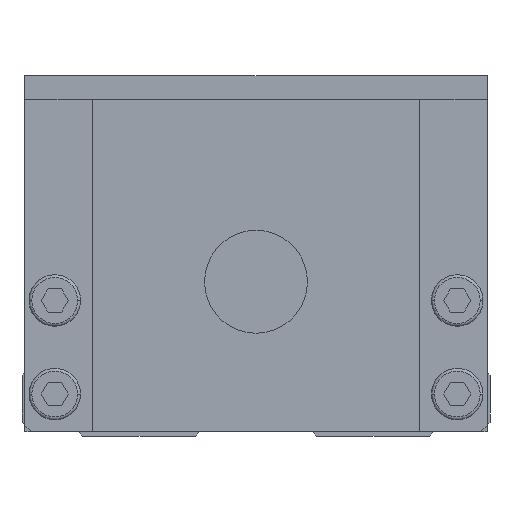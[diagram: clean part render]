
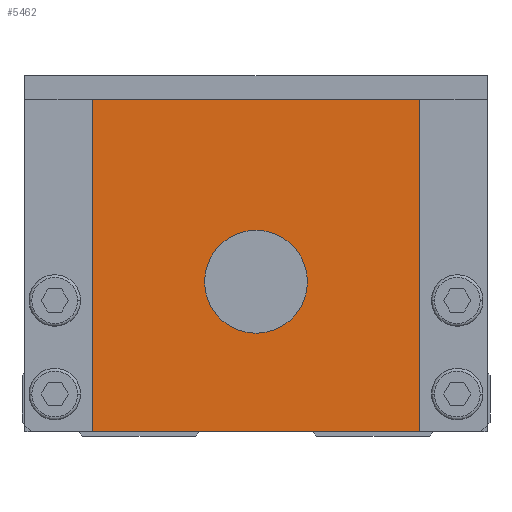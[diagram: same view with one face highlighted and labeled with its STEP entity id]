
A CAD part, front view. The second image highlights one B-rep face of the part: STEP entity #5462.
In plain terms, the highlighted planar face has unit normal (0, -1, 0).
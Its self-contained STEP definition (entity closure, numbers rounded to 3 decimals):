
#3842=EDGE_CURVE('',#7786,#9988,#10717,.T.);
#5298=EDGE_CURVE('',#9988,#7786,#12343,.T.);
#5462=ADVANCED_FACE('',(#12522,#12523),#12524,.F.);
#7598=EDGE_CURVE('',#9266,#9674,#14921,.T.);
#7786=VERTEX_POINT('',#15126);
#7942=EDGE_CURVE('',#8484,#8138,#15296,.T.);
#8138=VERTEX_POINT('',#15517);
#8484=VERTEX_POINT('',#15898);
#9266=VERTEX_POINT('',#16765);
#9674=VERTEX_POINT('',#17217);
#9916=EDGE_CURVE('',#9674,#8484,#17483,.T.);
#9988=VERTEX_POINT('',#17564);
#10226=EDGE_CURVE('',#9266,#8138,#17821,.T.);
#10717=CIRCLE('',#18511,5.5);
#12343=CIRCLE('',#20826,5.5);
#12522=FACE_BOUND('',#21085,.T.);
#12523=FACE_OUTER_BOUND('',#21086,.T.);
#12524=PLANE('',#21087);
#14921=LINE('',#24514,#24515);
#15126=CARTESIAN_POINT('',(-5.5,0.0,16.5));
#15296=LINE('',#25106,#25107);
#15517=CARTESIAN_POINT('',(-17.5,0.0,0.5));
#15898=CARTESIAN_POINT('',(17.5,0.0,0.5));
#16765=CARTESIAN_POINT('',(-17.5,0.0,36.0));
#17217=CARTESIAN_POINT('',(17.5,0.0,36.0));
#17483=LINE('',#28322,#28323);
#17564=CARTESIAN_POINT('',(5.5,0.0,16.5));
#17821=LINE('',#28783,#28784);
#18511=AXIS2_PLACEMENT_3D('',#29343,#29344,#29345);
#20826=AXIS2_PLACEMENT_3D('',#31238,#31239,#31240);
#21085=EDGE_LOOP('',(#31420,#31421));
#21086=EDGE_LOOP('',(#31422,#31423,#31424,#31425));
#21087=AXIS2_PLACEMENT_3D('',#31426,#31427,#31428);
#24514=CARTESIAN_POINT('',(0.0,0.0,36.0));
#24515=VECTOR('',#34261,1.0);
#25106=CARTESIAN_POINT('',(0.0,0.0,0.5));
#25107=VECTOR('',#34651,1.0);
#28322=CARTESIAN_POINT('',(17.5,0.0,18.25));
#28323=VECTOR('',#37122,1.0);
#28783=CARTESIAN_POINT('',(-17.5,0.0,18.25));
#28784=VECTOR('',#37486,1.0);
#29343=CARTESIAN_POINT('',(0.0,0.0,16.5));
#29344=DIRECTION('',(-0.0,1.0,0.0));
#29345=DIRECTION('',(1.0,0.0,0.0));
#31238=CARTESIAN_POINT('',(0.0,0.0,16.5));
#31239=DIRECTION('',(-0.0,1.0,0.0));
#31240=DIRECTION('',(1.0,0.0,0.0));
#31420=ORIENTED_EDGE('',*,*,#5298,.T.);
#31421=ORIENTED_EDGE('',*,*,#3842,.T.);
#31422=ORIENTED_EDGE('',*,*,#10226,.T.);
#31423=ORIENTED_EDGE('',*,*,#7942,.F.);
#31424=ORIENTED_EDGE('',*,*,#9916,.F.);
#31425=ORIENTED_EDGE('',*,*,#7598,.F.);
#31426=CARTESIAN_POINT('',(0.0,0.0,18.25));
#31427=DIRECTION('',(0.0,1.0,0.0));
#31428=DIRECTION('',(0.0,0.0,1.0));
#34261=DIRECTION('',(1.0,0.0,0.0));
#34651=DIRECTION('',(-1.0,0.0,0.0));
#37122=DIRECTION('',(0.0,0.0,-1.0));
#37486=DIRECTION('',(0.0,0.0,-1.0));
